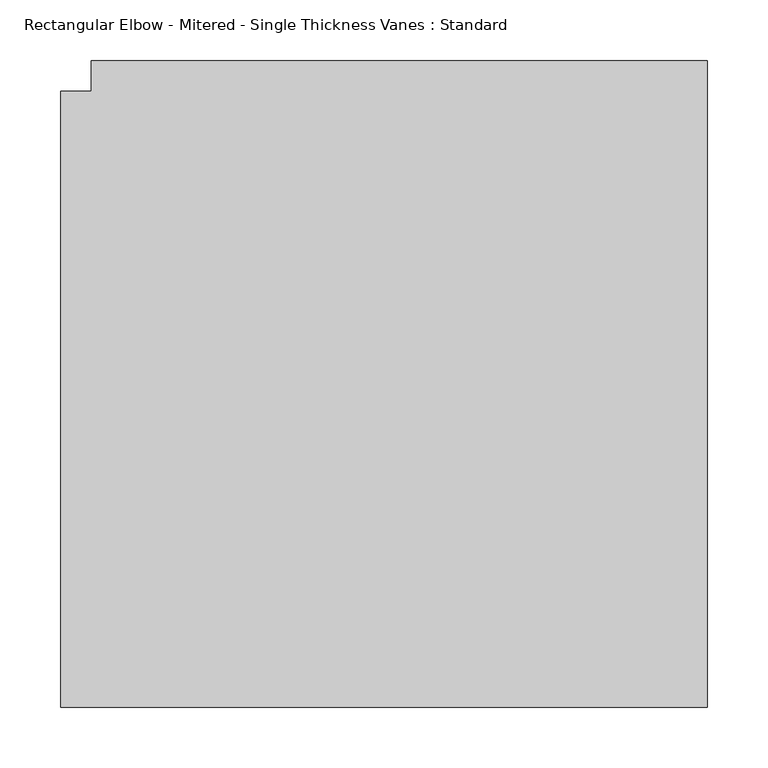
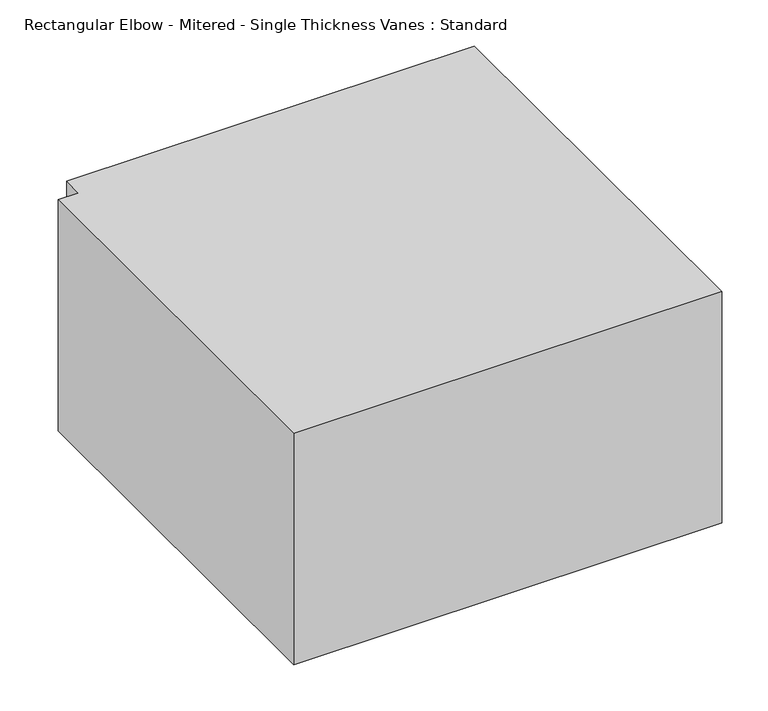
"""IFC4 building model written with IfcOpenShell, lengths in millimetres: duct fitting geometry, Rectangular Elbow - Mitered - Single Thickness Vanes : Standard."""

from ifc_helpers import new_model, si_unit, frame, origin, place, context, project, spatial, polyline, outline, extrude, source, transform, mapped, element, save


def rectangular_elbow_mitered_single_thickness_vanes_standard_45a2b785(model_context):
    return source(origin(), model_context, "Body", "SweptSolid", [
        extrude(outline(polyline([(-279.4, -254.0), (-279.4, 254.0), (-254.0, 254.0), (-254.0, 279.4), (254.0, 279.4), (254.0, -254.0), (-279.4, -254.0)])), frame((0.0, 0.0, -152.4), z_axis=(0.0, 0.0, 1.0), x_axis=(1.0, 0.0, 0.0)), (0.0, 0.0, 1.0), 304.8),
    ])


if __name__ == "__main__":
    model = new_model("IFC4")
    model_context = context("Model", 3, world=origin())
    ifc_project = project(units=[si_unit("LENGTHUNIT", "METRE", prefix="MILLI")], contexts=[model_context])
    site = spatial("IfcSite", under=ifc_project)
    building = spatial("IfcBuilding", under=site)
    placement = place(None, origin())
    rectangular_elbow_mitered_single_thickness_vanes_standard_shape = rectangular_elbow_mitered_single_thickness_vanes_standard_45a2b785(model_context)
    element("IfcDuctFitting", 1, ObjectType="Rectangular Elbow - Mitered - Single Thickness Vanes : Standard", at=placement, inside=building, context=model_context, shape_type="MappedRepresentation", body=[
        mapped(rectangular_elbow_mitered_single_thickness_vanes_standard_shape, transform((0.0, 0.0, 0.0), x_axis=(1.0, 0.0, 0.0), y_axis=(0.0, 1.0, 0.0), z_axis=(0.0, 0.0, 1.0))),
    ])
    save(model, "model.ifc")
